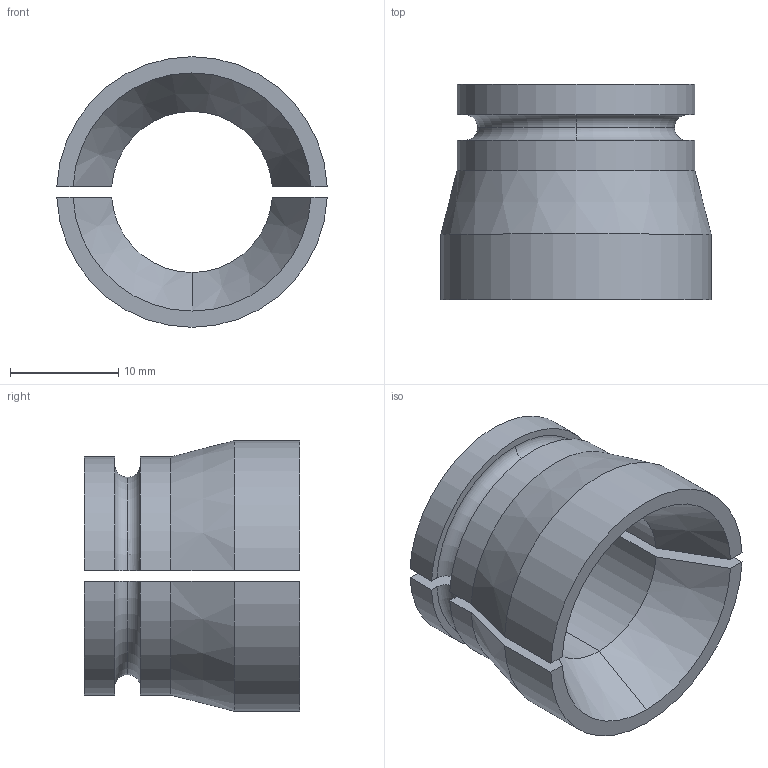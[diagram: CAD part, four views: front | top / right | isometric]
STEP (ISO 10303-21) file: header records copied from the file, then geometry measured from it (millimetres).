
FILE_DESCRIPTION (( 'STEP AP203' ), '1' );
FILE_NAME ('Barrel Sleeve Whole Alternative.STEP', '2020-08-04T07:45:58', ( '' ), ( '' ), 'SwSTEP 2.0', 'SolidWorks 2017', '' );
FILE_SCHEMA (( 'CONFIG_CONTROL_DESIGN' ));
Length unit declared in the file: millimetre
Products named in the file (1): Barrel Sleeve Whole Alternative
Bounding box: 24.98 x 19.9 x 25 mm (x, y, z)
Volume: 4108.6 mm3; surface area: 3179.3 mm2
Topology: 2 solids, 2 shells, 36 faces, 92 edges, 60 vertices
Faces by surface type: cylinder 12, plane 12, torus 6, cone 6
Entity records: 1249 total; most frequent: CARTESIAN_POINT 293, DIRECTION 188, ORIENTED_EDGE 184, EDGE_CURVE 92, AXIS2_PLACEMENT_3D 75, VERTEX_POINT 60, VECTOR 38, LINE 38
